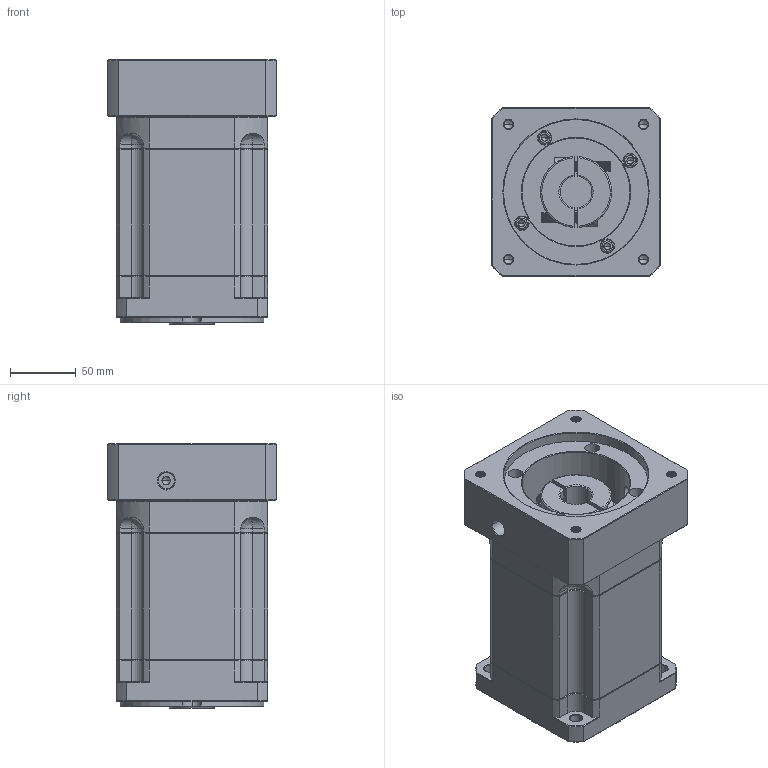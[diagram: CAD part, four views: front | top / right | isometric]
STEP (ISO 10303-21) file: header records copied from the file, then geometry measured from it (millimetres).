
FILE_DESCRIPTION (( 'STEP AP214' ), '1' );
FILE_NAME ('ZB115A-K25-L3-24-110-145-M8.step', '2023-03-02T09:06:18', ( '' ), ( 'Microsoft' ), 'SwSTEP 2.0', 'SolidWorks 2016', '' );
FILE_SCHEMA (( 'AUTOMOTIVE_DESIGN' ));
Length unit declared in the file: millimetre
Products named in the file (1): ZB115A-K25-L3-24-110-145-M8
Bounding box: 128 x 128 x 200.5 mm (x, y, z)
Volume: 2226308.5 mm3; surface area: 199912.3 mm2
Topology: 6 solids, 6 shells, 2057 faces, 5305 edges, 3342 vertices
Faces by surface type: plane 956, cylinder 406, cone 359, bspline 316, torus 20
Entity records: 107398 total; most frequent: CARTESIAN_POINT 37354, ORIENTED_EDGE 10546, DIRECTION 8698, EDGE_CURVE 5273, VERTEX_POINT 3342, LINE 3318, VECTOR 3318, AXIS2_PLACEMENT_3D 2690
